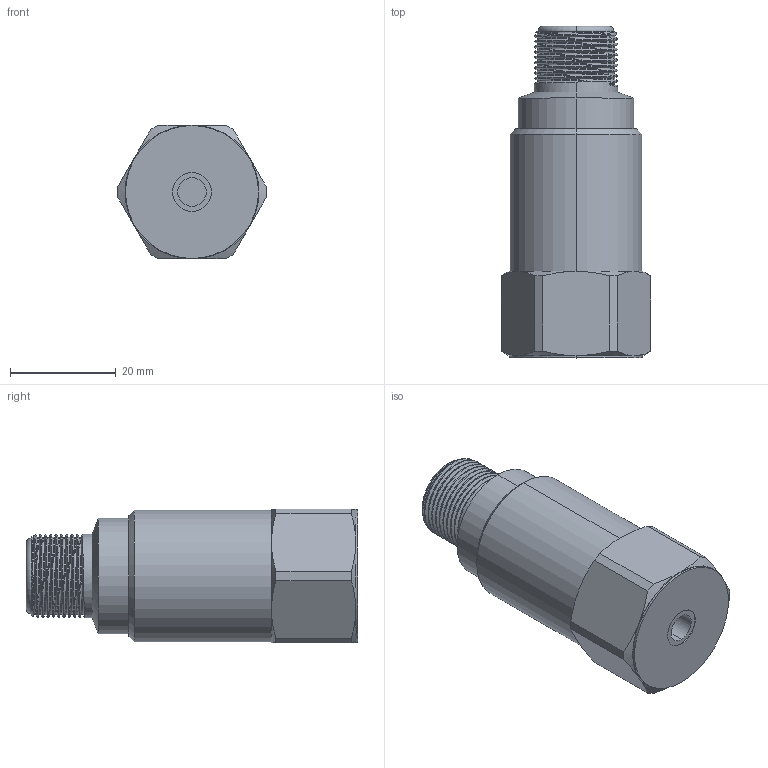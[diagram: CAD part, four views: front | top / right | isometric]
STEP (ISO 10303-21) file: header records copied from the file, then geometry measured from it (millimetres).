
FILE_DESCRIPTION (( 'STEP AP214' ), '1' );
FILE_NAME ('BVT1A90.STEP', '2026-03-31T06:14:44', ( '' ), ( '' ), 'SwSTEP 2.0', 'SolidWorks 2025', '' );
FILE_SCHEMA (( 'AUTOMOTIVE_DESIGN' ));
Length unit declared in the file: millimetre
Products named in the file (1): BVT1A90
Bounding box: 28.33 x 62.9 x 25.4 mm (x, y, z)
Volume: 25422.3 mm3; surface area: 6451.2 mm2
Topology: 1 solids, 1 shells, 79 faces, 192 edges, 122 vertices
Faces by surface type: cylinder 31, plane 24, cone 19, bspline 3, torus 2
Entity records: 4215 total; most frequent: CARTESIAN_POINT 2542, ORIENTED_EDGE 384, DIRECTION 297, EDGE_CURVE 192, AXIS2_PLACEMENT_3D 123, VERTEX_POINT 122, EDGE_LOOP 86, ADVANCED_FACE 79
